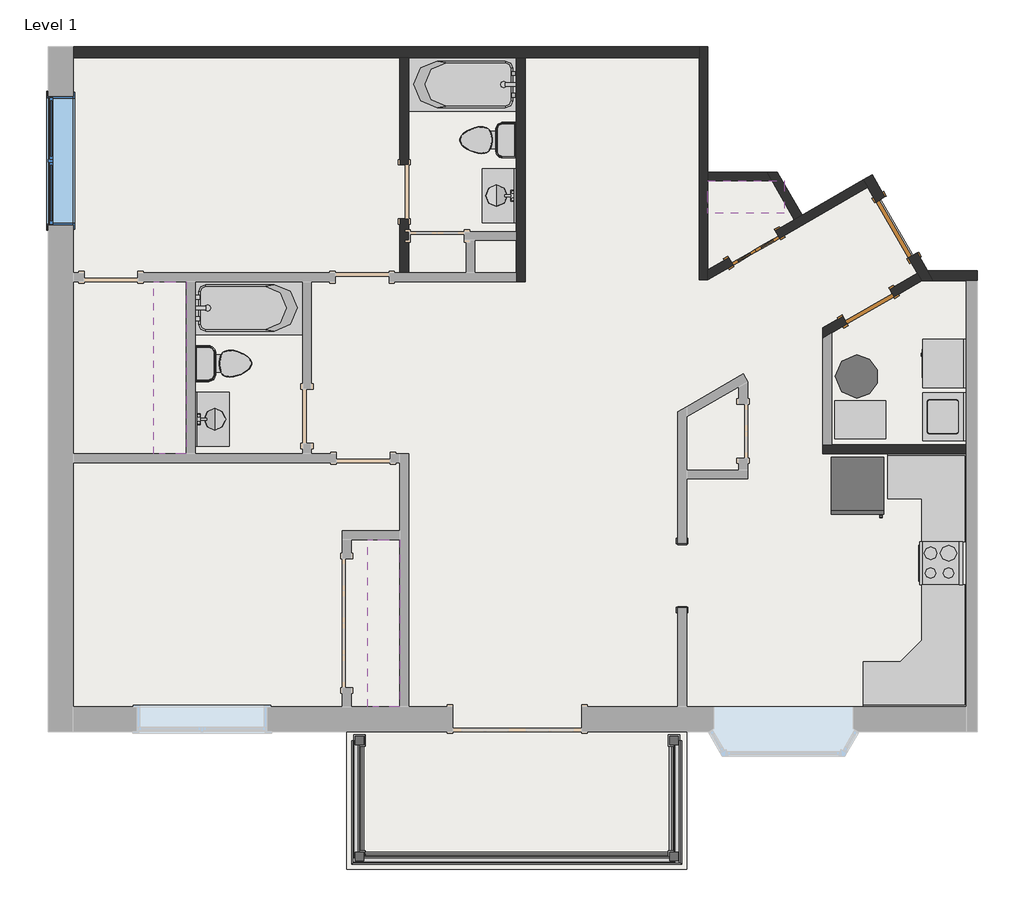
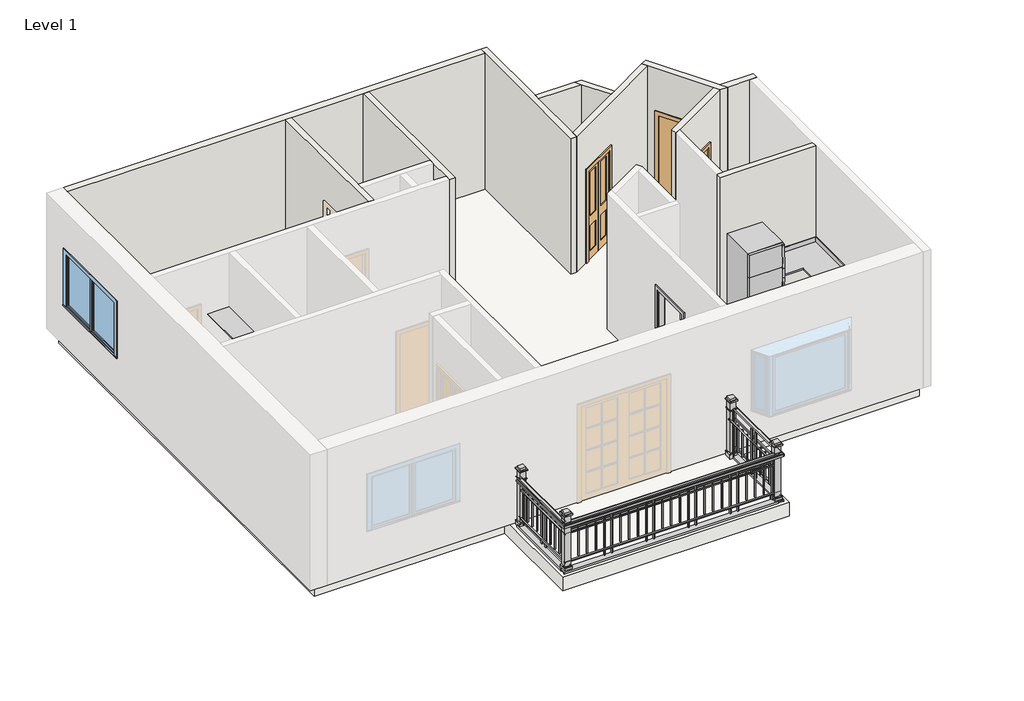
# One storey, part 2 of 2: 11 walls, 9 proxies, 7 flow terminals, 3 doors, 2 furniture elements, 1 railing, 1 slab, 1 window.
"""IFC4 building model written with IfcOpenShell, lengths in millimetres."""

from ifc_helpers import new_model, si_unit, frame, origin, origin_with_axes, place, context, project, spatial, polyline, outline, extrude, faceted_brep, transform, mapped, element, save
from components import proxy_4d1dcef2, proxy_fd232a78, proxy_fc3aa038, proxy_b4d0e45e, proxy_a3865931, proxy_02bc8a0f, proxy_ce4ccb0f, proxy_a13a33b2, proxy_718fa39f, door_77c9d7c5, door_91cbdfe0, door_140ee3fe, flow_terminal_ef44dd1b, flow_terminal_8c378771, flow_terminal_a1ff1c74, flow_terminal_0fc377b3, toilet_domestic_3d_toilet_domestic_3d_f7549cf7, toilet_domestic_3d_toilet_domestic_3d_183bbd19, water_heater_water_heater_e0cc5f81, furniture_eb782f3a, furniture_41abb01d, railing_da3c3019, railing_9e280cb1, railing_55643983, window_565d5888

model = new_model("IFC4")

# Units and contexts
model_context = context("Model", 3, world=origin())
ifc_project = project(units=[si_unit("LENGTHUNIT", "METRE", prefix="MILLI")], contexts=[model_context])

# Site, building, storey
site = spatial("IfcSite", under=ifc_project)
building = spatial("IfcBuilding", under=site)
storey = spatial("IfcBuildingStorey", under=building, Name="Level 1", Elevation=0.0)

# Proxies
placement = place(None, origin())
proxy_shape = proxy_4d1dcef2(model_context)
element("IfcBuildingElementProxy", 1, Name="Closet Shelf and Pole : 18\" Deep", ObjectType="Closet Shelf and Pole : 18\" Deep", at=placement, inside=storey, context=model_context, shape_type="MappedRepresentation", body=[
    mapped(proxy_shape, transform((-13659.1750398, -3892.2411799, 0.0), x_axis=(0.0, 1.0, 0.0), y_axis=(-1.0, 0.0, 0.0), z_axis=(0.0, 0.0, 1.0))),
])
proxy_2_shape = proxy_fd232a78(model_context)
element("IfcBuildingElementProxy", 2, Name="Closet Shelf and Pole : 18\" Deep", ObjectType="Closet Shelf and Pole : 18\" Deep", at=placement, inside=storey, context=model_context, shape_type="MappedRepresentation", body=[
    mapped(proxy_2_shape, transform((-10636.5750398, -7470.4661799, 0.0), x_axis=(0.0, 1.0, 0.0), y_axis=(-1.0, 0.0, 0.0), z_axis=(0.0, 0.0, 1.0))),
])
proxy_3_shape = proxy_fc3aa038(model_context)
element("IfcBuildingElementProxy", 3, Name="Closet Shelf and Pole : 18\" Deep", ObjectType="Closet Shelf and Pole : 18\" Deep", at=placement, inside=storey, context=model_context, shape_type="MappedRepresentation", body=[
    mapped(proxy_3_shape, transform((-6277.3000398, -28.7548222, 0.0), x_axis=(1.0, 0.0, 0.0), y_axis=(0.0, 1.0, 0.0), z_axis=(0.0, 0.0, 1.0))),
])
proxy_4_shape = proxy_b4d0e45e(model_context)
element("IfcBuildingElementProxy", 4, Name="Dryer : 27\" x 25\" x 35\"", ObjectType="Dryer : 27\" x 25\" x 35\"", at=placement, inside=storey, context=model_context, shape_type="MappedRepresentation", body=[
    mapped(proxy_4_shape, transform((-3234.3985436, -2231.7690464, 0.0), x_axis=(0.0, -1.0, 0.0), y_axis=(1.0, 0.0, 0.0), z_axis=(0.0, 0.0, 1.0))),
])
proxy_5_shape = proxy_a3865931(model_context)
element("IfcBuildingElementProxy", 5, Name="Furnace : 40\" x 21\" x 28\"", ObjectType="Furnace : 40\" x 21\" x 28\"", at=placement, inside=storey, context=model_context, shape_type="MappedRepresentation", body=[
    mapped(proxy_5_shape, transform((-4118.3000398, -3407.0914029, 0.0), x_axis=(0.0, 1.0, 0.0), y_axis=(-1.0, 0.0, 0.0), z_axis=(0.0, 0.0, 1.0))),
])
proxy_6_shape = proxy_02bc8a0f(model_context)
element("IfcBuildingElementProxy", 6, Name="Opening-Cased : 36\" x 80\"", ObjectType="Opening-Cased : 36\" x 80\"", at=placement, inside=storey, context=model_context, shape_type="MappedRepresentation", body=[
    mapped(proxy_6_shape, transform((-6640.8375398, -5622.8673366, 0.0), x_axis=(0.0, -1.0, 0.0), y_axis=(1.0, 0.0, 0.0), z_axis=(0.0, 0.0, 1.0))),
])
proxy_7_shape = proxy_ce4ccb0f(model_context)
element("IfcBuildingElementProxy", 7, Name="Range : 24\" x 24\"", ObjectType="Range : 24\" x 24\"", at=placement, inside=storey, context=model_context, shape_type="MappedRepresentation", body=[
    mapped(proxy_7_shape, transform((-3276.9250398, -5133.6661799, 0.0), x_axis=(0.0, -1.0, 0.0), y_axis=(1.0, 0.0, 0.0), z_axis=(0.0, 0.0, 1.0))),
])
proxy_8_shape = proxy_a13a33b2(model_context)
element("IfcBuildingElementProxy", 8, Name="Refrigerator : 30\" x 32\" RH", ObjectType="Refrigerator : 30\" x 32\" RH", at=placement, inside=storey, context=model_context, shape_type="MappedRepresentation", body=[
    mapped(proxy_8_shape, transform((-4157.9875398, -4328.4151514, 0.0), x_axis=(1.0, 0.0, 0.0), y_axis=(0.0, 1.0, 0.0), z_axis=(0.0, 0.0, 1.0))),
])
proxy_9_shape = proxy_718fa39f(model_context)
element("IfcBuildingElementProxy", 9, Name="Washer : 27\" x 25\" x 35\"", ObjectType="Washer : 27\" x 25\" x 35\"", at=placement, inside=storey, context=model_context, shape_type="MappedRepresentation", body=[
    mapped(proxy_9_shape, transform((-3198.8871046, -2945.9890343, 0.0), x_axis=(0.0, -1.0000000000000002, 0.0), y_axis=(1.0000000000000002, 0.0, 0.0), z_axis=(0.0, 0.0, 1.0))),
])

# Doors
door_shape = door_77c9d7c5(model_context)
element("IfcDoor", 10, ObjectType="Bifold-2 Panel : 30\" x 80\"", at=placement, inside=storey, context=model_context, shape_type="MappedRepresentation", body=[
    mapped(door_shape, transform((-5620.6593942, -978.2984974, 0.0), x_axis=(-0.8660254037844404, -0.4999999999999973, 0.0), y_axis=(0.4999999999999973, -0.8660254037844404, 0.0), z_axis=(0.0, 0.0, 1.0))),
])
door_2_shape = door_91cbdfe0(model_context)
element("IfcDoor", 11, ObjectType="Single-Flush : 30\" x 80\"", at=placement, inside=storey, context=model_context, shape_type="MappedRepresentation", body=[
    mapped(door_2_shape, transform((-4004.5369788, -1809.0046321, 0.0), x_axis=(0.8660254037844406, 0.4999999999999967, 0.0), y_axis=(-0.4999999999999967, 0.8660254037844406, 0.0), z_axis=(0.0, 0.0, 1.0))),
])
door_3_shape = door_140ee3fe(model_context)
element("IfcDoor", 12, ObjectType="Single-Flush : 36\" x 80\"", at=placement, inside=storey, context=model_context, shape_type="MappedRepresentation", body=[
    mapped(door_3_shape, transform((-3603.7554054, -687.0786799, 0.0), x_axis=(-0.4999999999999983, 0.8660254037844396, 0.0), y_axis=(-0.8660254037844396, -0.4999999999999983, 0.0), z_axis=(0.0, 0.0, 1.0))),
])

# Flow terminals
flow_terminal_shape = flow_terminal_ef44dd1b(model_context)
element("IfcFlowTerminal", 13, ObjectType="Bath_Tubrfa_5482 : 60\"x30\" - Private", at=placement, inside=storey, context=model_context, shape_type="MappedRepresentation", body=[
    mapped(flow_terminal_shape, transform((-13535.3500398, -2207.9036799, 0.0), x_axis=(1.0, 0.0, 0.0), y_axis=(0.0, 1.0, 0.0), z_axis=(0.0, 0.0, 1.0))),
])
flow_terminal_2_shape = flow_terminal_8c378771(model_context)
element("IfcFlowTerminal", 14, ObjectType="Bath_Tubrfa_5482 : 60\"x30\" - Private", at=placement, inside=storey, context=model_context, shape_type="MappedRepresentation", body=[
    mapped(flow_terminal_2_shape, transform((-8988.7500398, 955.9838201, 0.0), x_axis=(-1.0, 0.0, 0.0), y_axis=(0.0, -1.0, 0.0), z_axis=(0.0, 0.0, 1.0))),
])
flow_terminal_3_shape = flow_terminal_a1ff1c74(model_context)
element("IfcFlowTerminal", 15, ObjectType="Lavatory - Vanity : 30\"x18\" - Private", at=placement, inside=storey, context=model_context, shape_type="MappedRepresentation", body=[
    mapped(flow_terminal_3_shape, transform((-13535.3500398, -3401.7036799, 0.0), x_axis=(1.0, 0.0, 0.0), y_axis=(0.0, 1.0, 0.0), z_axis=(0.0, 0.0, 1.0))),
])
flow_terminal_4_shape = flow_terminal_0fc377b3(model_context)
element("IfcFlowTerminal", 16, ObjectType="Lavatory - Vanity : 30\"x18\" - Private", at=placement, inside=storey, context=model_context, shape_type="MappedRepresentation", body=[
    mapped(flow_terminal_4_shape, transform((-8988.7500398, -237.8161799, 0.0), x_axis=(-1.0, 0.0, 0.0), y_axis=(0.0, -1.0, 0.0), z_axis=(0.0, 0.0, 1.0))),
])
toilet_domestic_3d_toilet_domestic_3d_shape = toilet_domestic_3d_toilet_domestic_3d_f7549cf7(model_context)
toilet_domestic_3d_toilet_domestic_3d_2_shape = toilet_domestic_3d_toilet_domestic_3d_183bbd19(model_context)
element("IfcFlowTerminal", 17, ObjectType="Toilet-Domestic-3D : Toilet-Domestic-3D", at=placement, inside=storey, context=model_context, shape_type="MappedRepresentation", body=[
    mapped(toilet_domestic_3d_toilet_domestic_3d_shape, transform((-13040.6540125, -2614.3036799, 0.0), x_axis=(0.0, 1.0, 0.0), y_axis=(-1.0, 0.0, 0.0), z_axis=(0.0, 0.0, 1.0))),
    mapped(toilet_domestic_3d_toilet_domestic_3d_2_shape, transform((-13040.6540125, -2614.3036799, 0.0), x_axis=(0.0, 1.0, 0.0), y_axis=(-1.0, 0.0, 0.0), z_axis=(0.0, 0.0, 1.0))),
])
element("IfcFlowTerminal", 18, ObjectType="Toilet-Domestic-3D : Toilet-Domestic-3D", at=placement, inside=storey, context=model_context, shape_type="MappedRepresentation", body=[
    mapped(toilet_domestic_3d_toilet_domestic_3d_shape, transform((-9483.4460672, 549.5838201, 0.0), x_axis=(0.0, -1.0, 0.0), y_axis=(1.0, 0.0, 0.0), z_axis=(0.0, 0.0, 1.0))),
    mapped(toilet_domestic_3d_toilet_domestic_3d_2_shape, transform((-9483.4460672, 549.5838201, 0.0), x_axis=(0.0, -1.0, 0.0), y_axis=(1.0, 0.0, 0.0), z_axis=(0.0, 0.0, 1.0))),
])
water_heater_water_heater_shape = water_heater_water_heater_e0cc5f81(model_context)
element("IfcFlowTerminal", 19, ObjectType="Water Heater : Water Heater", at=placement, inside=storey, context=model_context, shape_type="MappedRepresentation", body=[
    mapped(water_heater_water_heater_shape, transform((-4169.1000398, -2796.5261032, 0.0), x_axis=(0.0, 1.0, 0.0), y_axis=(-1.0, 0.0, 0.0), z_axis=(0.0, 0.0, 1.0))),
])

# Furniture
furniture_shape = furniture_eb782f3a(model_context)
element("IfcFurniture", 20, ObjectType="Counter Top-L Shaped 2 : 24\" Depth", at=placement, inside=storey, context=model_context, shape_type="MappedRepresentation", body=[
    mapped(furniture_shape, transform((-2616.5250398, -6270.0038848, 0.0), x_axis=(0.0, 1.0, 0.0), y_axis=(-1.0, 0.0, 0.0), z_axis=(0.0, 0.0, 1.0))),
])
furniture_2_shape = furniture_41abb01d(model_context)
element("IfcFurniture", 21, ObjectType="Counter Top-L Shaped : 24\" Depth", at=placement, inside=storey, context=model_context, shape_type="MappedRepresentation", body=[
    mapped(furniture_2_shape, transform((-2616.5250398, -5089.528475, 0.0), x_axis=(0.0, -1.0, 0.0), y_axis=(1.0, 0.0, 0.0), z_axis=(0.0, 0.0, 1.0))),
])

# Railing
railing_shape = railing_da3c3019(model_context)
railing_2_shape = railing_9e280cb1(model_context)
railing_3_shape = railing_55643983(model_context)
element("IfcRailing", 22, ObjectType="Deco Type", at=placement, inside=storey, context=model_context, shape_type="MappedRepresentation", body=[
    mapped(railing_shape, transform((0.0, 0.0, 0.0), x_axis=(1.0, 0.0, 0.0), y_axis=(0.0, 1.0, 0.0), z_axis=(0.0, 0.0, 1.0))),
    mapped(railing_2_shape, transform((0.0, 0.0, 0.0), x_axis=(1.0, 0.0, 0.0), y_axis=(0.0, 1.0, 0.0), z_axis=(0.0, 0.0, 1.0))),
    mapped(railing_3_shape, transform((0.0, 0.0, 0.0), x_axis=(1.0, 0.0, 0.0), y_axis=(0.0, 1.0, 0.0), z_axis=(0.0, 0.0, 1.0))),
])

# Slab
element("IfcSlab", 23, ObjectType="Generic - 12\"", at=placement, inside=storey, context=model_context, shape_type="SweptSolid", body=[
    extrude(outline(polyline([(-11387.4625398, -7635.5661799), (-15424.4750398, -7635.5661799), (-15424.4750398, 1744.9713201), (-6331.2750398, 1744.9713201), (-6331.2750398, 41.0951778), (-5327.4917096, 41.0951778), (-4955.4044712, -603.3788241), (-3977.9107726, -39.0225741), (-3207.8085908, -1372.8786799), (-2589.5375398, -1372.8786799), (-2589.5375398, -7635.5661799), (-6578.9250398, -7635.5661799), (-6578.9250398, -9769.1661799), (-11387.4625398, -9769.1661799), (-11387.4625398, -7635.5661799)])), frame((0.0, 0.0, -304.8), z_axis=(0.0, 0.0, 1.0), x_axis=(1.0, 0.0, 0.0)), (0.0, 0.0, 1.0), 304.8),
])

# Walls
element("IfcWall", 24, ObjectType="Generic - 6\" Masonry", at=placement, inside=storey, context=model_context, shape_type="Brep", body=[
    faceted_brep([(-3084.0752113, -1444.3161799, 0.0), (-2616.5250398, -1444.3161799, 0.0), (-2460.9500398, -1444.3161799, 0.0), (-2460.9500398, -1444.3161799, 3048.0), (-2616.5250398, -1444.3161799, 3048.0), (-3084.0752113, -1444.3161799, 3048.0), (-3166.564131, -1301.4411799, 0.0), (-3166.564131, -1301.4411799, 3048.0), (-2460.9500398, -1301.4411799, 3048.0), (-2460.9500398, -1301.4411799, 0.0)], [[[0, 1, 2, 3, 4, 5]], [[6, 7, 8, 9]], [[2, 1, 0, 6, 9]], [[5, 4, 3, 8, 7]], [[3, 2, 9, 8]], [[0, 5, 7, 6]]]),
])
element("IfcWall", 25, ObjectType="Generic - 6\" Masonry", at=placement, inside=storey, context=model_context, shape_type="Brep", body=[
    faceted_brep([(-4074.7024624, -14.2494496, 0.0), (-4012.7899624, -121.4850452, 0.0), (-3894.2220952, -326.8506153, 0.0), (-3894.2220952, -326.8506153, 2032.0), (-3437.0220952, -1118.7442445, 2032.0), (-3437.0220952, -1118.7442445, 0.0), (-3310.9655507, -1337.0805843, 0.0), (-3249.0530507, -1444.3161799, 0.0), (-3249.0530507, -1444.3161799, 3048.0), (-3310.9655507, -1337.0805843, 3048.0), (-4012.7899624, -121.4850452, 3048.0), (-4074.7024624, -14.2494496, 3048.0), (-3770.4887156, -255.4131153, 2032.0), (-3770.4887156, -255.4131153, 0.0), (-3950.9690828, 57.1880504, 0.0), (-3950.9690828, 57.1880504, 3048.0), (-3166.564131, -1301.4411799, 3048.0), (-3084.0752113, -1444.3161799, 3048.0), (-3084.0752113, -1444.3161799, 0.0), (-3166.564131, -1301.4411799, 0.0), (-3313.2887156, -1047.3067445, 0.0), (-3313.2887156, -1047.3067445, 2032.0)], [[[0, 1, 2, 3, 4, 5, 6, 7, 8, 9, 10, 11]], [[12, 13, 14, 15, 16, 17, 18, 19, 20, 21]], [[14, 13, 2, 1, 0]], [[20, 19, 18, 7, 6, 5]], [[11, 10, 9, 8, 17, 16, 15]], [[8, 7, 18, 17]], [[0, 11, 15, 14]], [[3, 2, 13, 12]], [[4, 3, 12, 21]], [[5, 4, 21, 20]]]),
])
element("IfcWall", 26, ObjectType="Interior - 4 7/8\" Partition (1-hr)", at=placement, inside=storey, context=model_context, shape_type="Brep", body=[
    faceted_brep([(-10512.7500398, -1330.0161799, 0.0), (-10512.7500398, -869.6411799, 0.0), (-10512.7500398, -745.8161799, 0.0), (-10512.7500398, -564.8411799, 0.0), (-10512.7500398, -564.8411799, 2032.0), (-10512.7500398, 197.1588201, 2032.0), (-10512.7500398, 197.1588201, 0.0), (-10512.7500398, 1717.9838201, 0.0), (-10512.7500398, 1717.9838201, 3048.0), (-10512.7500398, -745.8161799, 3048.0), (-10512.7500398, -869.6411799, 3048.0), (-10512.7500398, -1330.0161799, 3048.0), (-10636.5750398, -564.8411799, 2032.0), (-10636.5750398, -564.8411799, 0.0), (-10636.5750398, -1330.0161799, 0.0), (-10636.5750398, -1330.0161799, 3048.0), (-10636.5750398, 1717.9838201, 3048.0), (-10636.5750398, 1717.9838201, 0.0), (-10636.5750398, 197.1588201, 0.0), (-10636.5750398, 197.1588201, 2032.0)], [[[0, 1, 2, 3, 4, 5, 6, 7, 8, 9, 10, 11]], [[12, 13, 14, 15, 16, 17, 18, 19]], [[14, 13, 3, 2, 1, 0]], [[18, 17, 7, 6]], [[11, 10, 9, 8, 16, 15]], [[0, 11, 15, 14]], [[8, 7, 17, 16]], [[4, 3, 13, 12]], [[5, 4, 12, 19]], [[6, 5, 19, 18]]]),
])
element("IfcWall", 27, ObjectType="Interior - 4 7/8\" Partition (1-hr)", at=placement, inside=storey, context=model_context, shape_type="Brep", body=[
    faceted_brep([(-8864.9250398, -1453.8411799, 0.0), (-8864.9250398, 1717.9838201, 0.0), (-8864.9250398, 1717.9838201, 3048.0), (-8864.9250398, -1453.8411799, 3048.0), (-8988.7500398, -1453.8411799, 0.0), (-8988.7500398, -1453.8411799, 3048.0), (-8988.7500398, -1330.0161799, 3048.0), (-8988.7500398, -869.6411799, 3048.0), (-8988.7500398, -745.8161799, 3048.0), (-8988.7500398, 1717.9838201, 3048.0), (-8988.7500398, 1717.9838201, 0.0), (-8988.7500398, -745.8161799, 0.0), (-8988.7500398, -869.6411799, 0.0), (-8988.7500398, -1330.0161799, 0.0)], [[[0, 1, 2, 3]], [[4, 5, 6, 7, 8, 9, 10, 11, 12, 13]], [[1, 0, 4, 13, 12, 11, 10]], [[3, 2, 9, 8, 7, 6, 5]], [[0, 3, 5, 4]], [[2, 1, 10, 9]]]),
])
element("IfcWall", 28, ObjectType="Interior - 4 7/8\" Partition (1-hr)", at=placement, inside=storey, context=model_context, shape_type="Brep", body=[
    faceted_brep([(-3310.9655507, -1337.0805843, 0.0), (-3705.53755, -1564.8868343, 0.0), (-3705.53755, -1564.8868343, 2032.0), (-4365.4489076, -1945.8868343, 2032.0), (-4365.4489076, -1945.8868343, 0.0), (-4648.5250398, -2109.3209154, 0.0), (-4648.5250398, -2109.3209154, 3048.0), (-3310.9655507, -1337.0805843, 3048.0), (-3643.62505, -1672.1224299, 2032.0), (-3643.62505, -1672.1224299, 0.0), (-3249.0530507, -1444.3161799, 0.0), (-3249.0530507, -1444.3161799, 3048.0), (-4524.7000398, -2180.8113125, 3048.0), (-4648.5250398, -2252.3017096, 3048.0), (-4648.5250398, -2252.3017096, 0.0), (-4524.7000398, -2180.8113125, 0.0), (-4303.5364076, -2053.1224299, 0.0), (-4303.5364076, -2053.1224299, 2032.0)], [[[0, 1, 2, 3, 4, 5, 6, 7]], [[8, 9, 10, 11, 12, 13, 14, 15, 16, 17]], [[10, 9, 1, 0]], [[16, 15, 14, 5, 4]], [[7, 6, 13, 12, 11]], [[6, 5, 14, 13]], [[0, 7, 11, 10]], [[2, 1, 9, 8]], [[3, 2, 8, 17]], [[4, 3, 17, 16]]]),
])
element("IfcWall", 29, ObjectType="Interior - 4 7/8\" Partition (1-hr)", at=placement, inside=storey, context=model_context, shape_type="Brep", body=[
    faceted_brep([(-6277.3000398, -1428.900548, 0.0), (-6277.3000398, -1285.9197539, 0.0), (-6277.3000398, -28.7548222, 0.0), (-6277.3000398, 95.0701778, 0.0), (-6277.3000398, 1873.5588201, 0.0), (-6277.3000398, 1873.5588201, 3048.0), (-6277.3000398, 95.0701778, 3048.0), (-6277.3000398, -28.7548222, 3048.0), (-6277.3000398, -1285.9197539, 3048.0), (-6277.3000398, -1428.900548, 3048.0), (-6401.1250398, -1428.900548, 0.0), (-6401.1250398, -1428.900548, 3048.0), (-6401.1250398, 1717.9838201, 3048.0), (-6401.1250398, 1873.5588201, 3048.0), (-6401.1250398, 1873.5588201, 0.0), (-6401.1250398, 1717.9838201, 0.0)], [[[0, 1, 2, 3, 4, 5, 6, 7, 8, 9]], [[10, 11, 12, 13, 14, 15]], [[4, 3, 2, 1, 0, 10, 15, 14]], [[9, 8, 7, 6, 5, 13, 12, 11]], [[0, 9, 11, 10]], [[5, 4, 14, 13]]]),
])
element("IfcWall", 30, ObjectType="Interior - 4 7/8\" Partition (1-hr)", at=placement, inside=storey, context=model_context, shape_type="Brep", body=[
    faceted_brep([(-4648.5250398, -3889.0661799, 0.0), (-2616.5250398, -3889.0661799, 0.0), (-2616.5250398, -3889.0661799, 3048.0), (-4648.5250398, -3889.0661799, 3048.0), (-4648.5250398, -3765.2411799, 0.0), (-4648.5250398, -3765.2411799, 3048.0), (-4524.7000398, -3765.2411799, 3048.0), (-2616.5250398, -3765.2411799, 3048.0), (-2616.5250398, -3765.2411799, 0.0), (-4524.7000398, -3765.2411799, 0.0)], [[[0, 1, 2, 3]], [[4, 5, 6, 7, 8, 9]], [[1, 0, 4, 9, 8]], [[3, 2, 7, 6, 5]], [[0, 3, 5, 4]], [[2, 1, 8, 7]]]),
])
element("IfcWall", 31, ObjectType="Interior - 4 7/8\" Partition (1-hr)", at=placement, inside=storey, context=model_context, shape_type="Brep", body=[
    faceted_brep([(-6277.3000398, -1428.900548, 0.0), (-5919.658823, -1222.4162952, 0.0), (-5919.658823, -1222.4162952, 2032.0), (-5259.7474653, -841.4162952, 2032.0), (-5259.7474653, -841.4162952, 0.0), (-4012.7899624, -121.4850452, 0.0), (-4012.7899624, -121.4850452, 3048.0), (-6277.3000398, -1428.900548, 3048.0), (-5981.571323, -1115.1806996, 2032.0), (-5981.571323, -1115.1806996, 0.0), (-6277.3000398, -1285.9197539, 0.0), (-6277.3000398, -1285.9197539, 3048.0), (-5050.8213456, -577.8119496, 3048.0), (-4943.58575, -515.8994496, 3048.0), (-4074.7024624, -14.2494496, 3048.0), (-4074.7024624, -14.2494496, 0.0), (-4943.58575, -515.8994496, 0.0), (-5050.8213456, -577.8119496, 0.0), (-5321.6599653, -734.1806996, 0.0), (-5321.6599653, -734.1806996, 2032.0)], [[[0, 1, 2, 3, 4, 5, 6, 7]], [[8, 9, 10, 11, 12, 13, 14, 15, 16, 17, 18, 19]], [[10, 9, 1, 0]], [[18, 17, 16, 15, 5, 4]], [[7, 6, 14, 13, 12, 11]], [[0, 7, 11, 10]], [[6, 5, 15, 14]], [[2, 1, 9, 8]], [[3, 2, 8, 19]], [[4, 3, 19, 18]]]),
])
element("IfcWall", 32, ObjectType="Interior - 4 7/8\" Partition (1-hr)", at=placement, inside=storey, context=model_context, shape_type="Brep", body=[
    faceted_brep([(-4943.58575, -515.8994496, 0.0), (-5296.3292288, 95.0701778, 0.0), (-5296.3292288, 95.0701778, 3048.0), (-4943.58575, -515.8994496, 3048.0), (-5050.8213456, -577.8119496, 0.0), (-5050.8213456, -577.8119496, 3048.0), (-5367.8196259, -28.7548222, 3048.0), (-5439.310023, 95.0701778, 3048.0), (-5439.310023, 95.0701778, 0.0), (-5367.8196259, -28.7548222, 0.0)], [[[0, 1, 2, 3]], [[4, 5, 6, 7, 8, 9]], [[1, 0, 4, 9, 8]], [[3, 2, 7, 6, 5]], [[2, 1, 8, 7]], [[0, 3, 5, 4]]]),
])
element("IfcWall", 33, ObjectType="Interior - 4 7/8\" Partition (1-hr)", at=placement, inside=storey, context=model_context, shape_type="SweptSolid", body=[
    extrude(outline(polyline([(-6277.3000398, 95.0701778), (-5439.310023, 95.0701778), (-5367.8196259, -28.7548222), (-6277.3000398, -28.7548222), (-6277.3000398, 95.0701778)])), origin_with_axes(), (0.0, 0.0, 1.0), 3048.0),
])
element("IfcWall", 34, ObjectType="Interior - 6 1/8\" Partition (2-hr)", at=placement, inside=storey, context=model_context, shape_type="Brep", body=[
    faceted_brep([(-6401.1250398, 1873.5588201, 0.0), (-15259.3750398, 1873.5588201, 0.0), (-15259.3750398, 1873.5588201, 3048.0), (-6401.1250398, 1873.5588201, 3048.0), (-6401.1250398, 1717.9838201, 0.0), (-6401.1250398, 1717.9838201, 3048.0), (-8864.9250398, 1717.9838201, 3048.0), (-8988.7500398, 1717.9838201, 3048.0), (-10512.7500398, 1717.9838201, 3048.0), (-10636.5750398, 1717.9838201, 3048.0), (-15259.3750398, 1717.9838201, 3048.0), (-15259.3750398, 1717.9838201, 0.0), (-10636.5750398, 1717.9838201, 0.0), (-10512.7500398, 1717.9838201, 0.0), (-8988.7500398, 1717.9838201, 0.0), (-8864.9250398, 1717.9838201, 0.0)], [[[0, 1, 2, 3]], [[4, 5, 6, 7, 8, 9, 10, 11, 12, 13, 14, 15]], [[1, 0, 4, 15, 14, 13, 12, 11]], [[3, 2, 10, 9, 8, 7, 6, 5]], [[0, 3, 5, 4]], [[2, 1, 11, 10]]]),
])

# Window
window_shape = window_565d5888(model_context)
element("IfcWindow", 35, ObjectType="Casement Dbl with Trim : 72\" x 48\"", at=placement, inside=storey, context=model_context, shape_type="MappedRepresentation", body=[
    mapped(window_shape, transform((-15416.5375398, 255.8963201, -304.8), x_axis=(0.0, 1.0, 0.0), y_axis=(-1.0, 0.0, 0.0), z_axis=(0.0, 0.0, 1.0))),
])

save(model, "model.ifc")
